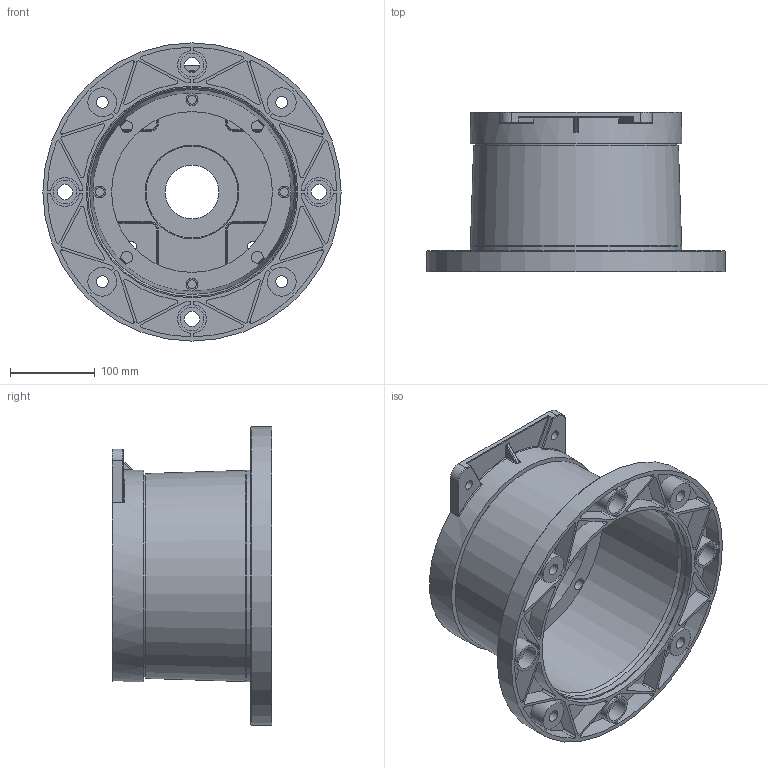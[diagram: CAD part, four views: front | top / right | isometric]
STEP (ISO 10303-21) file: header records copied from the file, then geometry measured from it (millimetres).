
FILE_DESCRIPTION(('STEP AP203'),'2;1');
FILE_NAME('LSE358.stp','2005-07-21T17:52:40',(''),(''),'9.0.0','THINKDESIGN','');
FILE_SCHEMA(('CONFIG_CONTROL_DESIGN'));
Length unit declared in the file: millimetre
Bounding box: 352.5 x 188.5 x 352.5 mm (x, y, z)
Volume: 1761158.2 mm3; surface area: 646637.9 mm2
Topology: 3 solids, 3 shells, 462 faces, 1233 edges, 804 vertices
Faces by surface type: cylinder 198, plane 140, bspline 124
Full cylindrical faces by diameter (mm): 10.25 x4, 11.5 x4, 14 x12, 18 x4, 28 x4, 63.5 x1, 108.5 x1, 110 x2, 190 x1, 237 x2, 247 x1, 250 x3, 352.5 x1
Entity records: 22099 total; most frequent: CARTESIAN_POINT 10467, ORIENTED_EDGE 2442, DIRECTION 2373, EDGE_CURVE 1221, AXIS2_PLACEMENT_3D 920, VERTEX_POINT 804, CIRCLE 582, EDGE_LOOP 547
